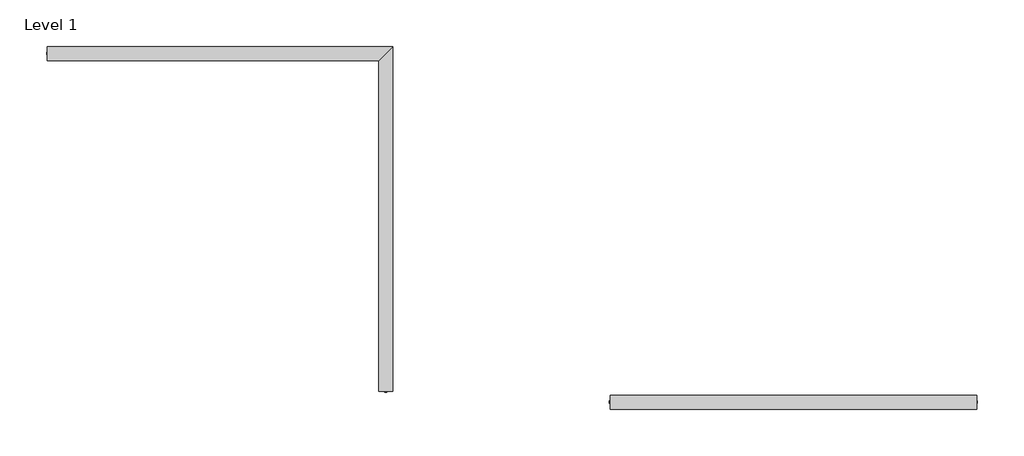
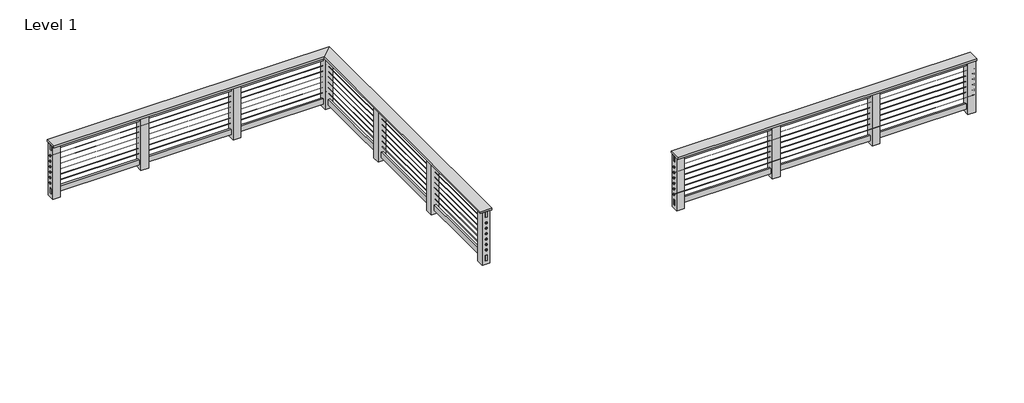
# One storey: 2 railings.
"""IFC4 building model written with IfcOpenShell, lengths in millimetres."""

from ifc_helpers import new_model, si_unit, origin, place, context, project, spatial, transform, mapped, element, save
from components import railing_a0584a1e, railing_3a9d6573

model = new_model("IFC4")

# Units and contexts
model_context = context("Model", 3, world=origin())
ifc_project = project(units=[si_unit("LENGTHUNIT", "METRE", prefix="MILLI")], contexts=[model_context])

# Site, building, storey
site = spatial("IfcSite", under=ifc_project)
building = spatial("IfcBuilding", under=site)
storey = spatial("IfcBuildingStorey", under=building, Name="Level 1", Elevation=0.0)

# Railings
placement = place(None, origin())
railing_shape = railing_a0584a1e(model_context)
element("IfcRailing", 1, ObjectType="HandiSwage Cable Railing System Flat", at=placement, inside=storey, context=model_context, shape_type="MappedRepresentation", body=[
    mapped(railing_shape, transform((0.0, 0.0, 0.0), x_axis=(1.0, 0.0, 0.0), y_axis=(0.0, 1.0, 0.0), z_axis=(0.0, 0.0, 1.0))),
])
railing_2_shape = railing_3a9d6573(model_context)
element("IfcRailing", 2, ObjectType="HandiSwage Cable Railing System Flat", at=placement, inside=storey, context=model_context, shape_type="MappedRepresentation", body=[
    mapped(railing_2_shape, transform((0.0, 0.0, 0.0), x_axis=(1.0, 0.0, 0.0), y_axis=(0.0, 1.0, 0.0), z_axis=(0.0, 0.0, 1.0))),
])

save(model, "model.ifc")
